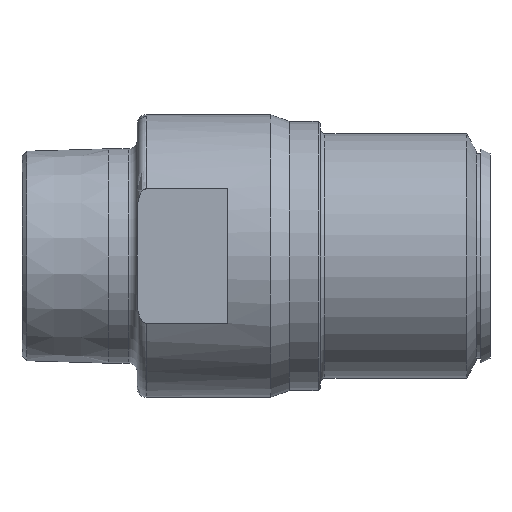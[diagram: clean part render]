
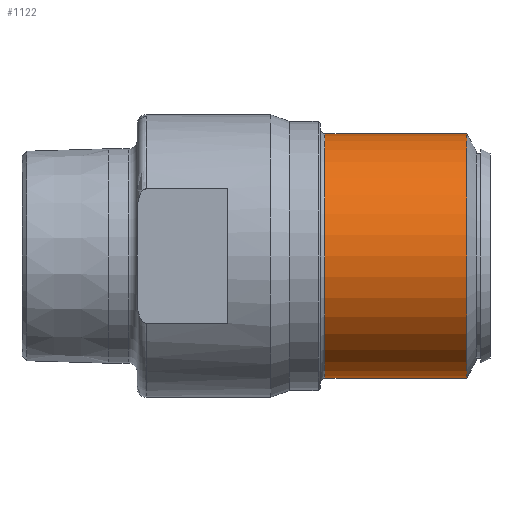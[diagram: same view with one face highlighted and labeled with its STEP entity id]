
A CAD part, front view. The second image highlights one B-rep face of the part: STEP entity #1122.
In plain terms, the highlighted cylindrical face has radius 27 mm (diameter 54 mm), a partial arc.
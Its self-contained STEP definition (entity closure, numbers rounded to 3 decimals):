
#1 = EDGE_CURVE ( 'NONE', #1188, #1185, #225, .T. ) ;
#33 = EDGE_CURVE ( 'NONE', #1217, #1188, #545, .T. ) ;
#34 = EDGE_CURVE ( 'NONE', #1181, #1185, #550, .T. ) ;
#35 = EDGE_CURVE ( 'NONE', #1217, #1181, #183, .T. ) ;
#112 = VECTOR ( 'NONE', #549, 1000. ) ;
#150 = VECTOR ( 'NONE', #552, 1000. ) ;
#160 = AXIS2_PLACEMENT_3D ( 'NONE', #553, #554, #555 ) ;
#178 = AXIS2_PLACEMENT_3D ( 'NONE', #1314, #252, #251 ) ;
#183 = CIRCLE ( 'NONE', #160, 27. ) ;
#225 = CIRCLE ( 'NONE', #178, 27. ) ;
#251 = DIRECTION ( 'NONE',  ( 0., 0., 1. ) ) ;
#252 = DIRECTION ( 'NONE',  ( 1., 0., 0. ) ) ;
#282 = EDGE_LOOP ( 'NONE', ( #1153, #358, #290, #289 ) ) ;
#289 = ORIENTED_EDGE ( 'NONE', *, *, #1, .F. ) ;
#290 = ORIENTED_EDGE ( 'NONE', *, *, #34, .T. ) ;
#358 = ORIENTED_EDGE ( 'NONE', *, *, #35, .T. ) ;
#431 = AXIS2_PLACEMENT_3D ( 'NONE', #974, #970, #976 ) ;
#541 = CARTESIAN_POINT ( 'NONE',  ( 1.309, 0., 27. ) ) ;
#545 = LINE ( 'NONE', #541, #112 ) ;
#549 = DIRECTION ( 'NONE',  ( 1., 0., 0. ) ) ;
#550 = LINE ( 'NONE', #551, #150 ) ;
#551 = CARTESIAN_POINT ( 'NONE',  ( 1.309, 0., -27. ) ) ;
#552 = DIRECTION ( 'NONE',  ( 1., 0., 0. ) ) ;
#553 = CARTESIAN_POINT ( 'NONE',  ( -36.5, 0., 0. ) ) ;
#554 = DIRECTION ( 'NONE',  ( 1., 0., 0. ) ) ;
#555 = DIRECTION ( 'NONE',  ( 0., 0., -1. ) ) ;
#970 = DIRECTION ( 'NONE',  ( 1., 0., 0. ) ) ;
#973 = FACE_OUTER_BOUND ( 'NONE', #282, .T. ) ;
#974 = CARTESIAN_POINT ( 'NONE',  ( 1.309, 0., 0. ) ) ;
#975 = CYLINDRICAL_SURFACE ( 'NONE', #431, 27. ) ;
#976 = DIRECTION ( 'NONE',  ( 0., 0., -1. ) ) ;
#998 = CARTESIAN_POINT ( 'NONE',  ( -36.5, 0., -27. ) ) ;
#1007 = CARTESIAN_POINT ( 'NONE',  ( -5.194, 0., -27. ) ) ;
#1010 = CARTESIAN_POINT ( 'NONE',  ( -5.194, 0., 27. ) ) ;
#1039 = CARTESIAN_POINT ( 'NONE',  ( -36.5, 0., 27. ) ) ;
#1122 = ADVANCED_FACE ( 'NONE', ( #973 ), #975, .T. ) ;
#1153 = ORIENTED_EDGE ( 'NONE', *, *, #33, .F. ) ;
#1181 = VERTEX_POINT ( 'NONE', #998 ) ;
#1185 = VERTEX_POINT ( 'NONE', #1007 ) ;
#1188 = VERTEX_POINT ( 'NONE', #1010 ) ;
#1217 = VERTEX_POINT ( 'NONE', #1039 ) ;
#1314 = CARTESIAN_POINT ( 'NONE',  ( -5.194, 0., 0. ) ) ;
